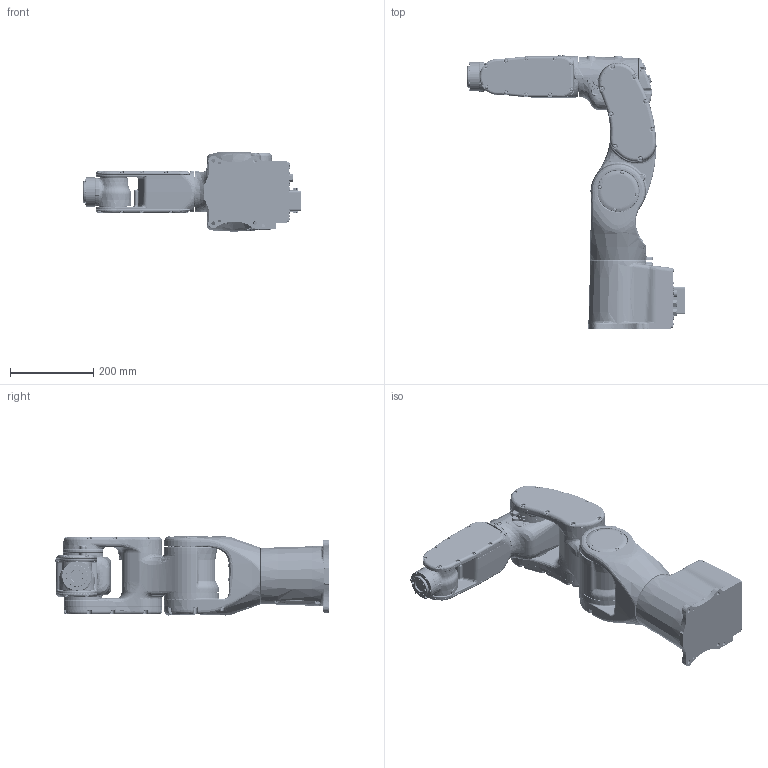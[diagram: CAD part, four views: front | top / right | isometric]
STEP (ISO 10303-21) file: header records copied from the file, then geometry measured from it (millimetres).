
FILE_DESCRIPTION((''),'2;1');
FILE_NAME('ASSY_VIEW_YR-1-06VX4-A00_ASM','2020-08-07T',('y_miya'),('YASKAWA ELECTRIC CORPORATION'),'PRO/ENGINEER BY PARAMETRIC TECHNOLOGY CORPORATION, 2015030','PRO/ENGINEER BY PARAMETRIC TECHNOLOGY CORPORATION, 2015030','');
FILE_SCHEMA(('CONFIG_CONTROL_DESIGN'));
Products named in the file (8): BASE_VIEW_YR-1-06VX4-A00; S_VIEW_YR-1-06VX4-A00; L_VIEW_YR-1-06VX4-A00; U_VIEW_YR-1-06VX4-A00; R_VIEW_YR-1-06VX4-A00; B_VIEW_YR-1-06VX4-A00; T_VIEW_YR-1-06VX4-A00; ASSY_VIEW_YR-1-06VX4-A00_ASM
Assembly tree (7 placements, depth 2):
  ASSY_VIEW_YR-1-06VX4-A00_ASM
    BASE_VIEW_YR-1-06VX4-A00
    S_VIEW_YR-1-06VX4-A00
    L_VIEW_YR-1-06VX4-A00
    U_VIEW_YR-1-06VX4-A00
    R_VIEW_YR-1-06VX4-A00
    B_VIEW_YR-1-06VX4-A00
    T_VIEW_YR-1-06VX4-A00
Bounding box: 521.65 x 656.5 x 190 mm (x, y, z)
Volume: 14125526 mm3; surface area: 943183.7 mm2
Topology: 7 solids, 12 shells, 5406 faces, 12846 edges, 7686 vertices
Faces by surface type: plane 1672, bspline 1354, cylinder 1246, torus 526, cone 520, sphere 38, revolution 38, extrusion 12
Entity records: 248249 total; most frequent: CARTESIAN_POINT 131630, ORIENTED_EDGE 25672, DIRECTION 22990, EDGE_CURVE 12836, AXIS2_PLACEMENT_3D 9466, VERTEX_POINT 7686, EDGE_LOOP 5682, CIRCLE 5443
